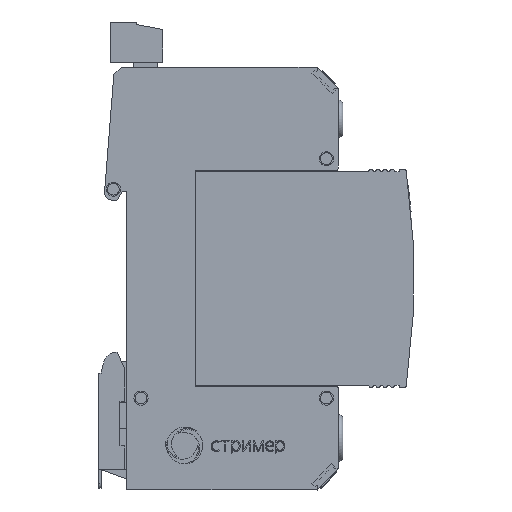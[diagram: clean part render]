
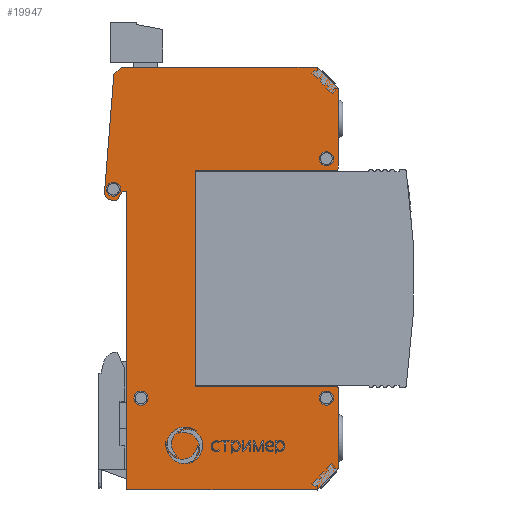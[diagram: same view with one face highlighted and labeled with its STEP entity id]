
A CAD part, front view. The second image highlights one B-rep face of the part: STEP entity #19947.
In plain terms, the highlighted planar face has unit normal (0, -1, 0).
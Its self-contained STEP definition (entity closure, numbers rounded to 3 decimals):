
#18127=CARTESIAN_POINT('',(-14.5,-9.,-45.));
#18128=VERTEX_POINT('',#18127);
#18129=CARTESIAN_POINT('',(26.,-9.,-45.));
#18130=VERTEX_POINT('',#18129);
#18131=CARTESIAN_POINT('',(-14.5,-9.,-45.));
#18132=DIRECTION('',(1.,0.,-0.));
#18133=VECTOR('',#18132,40.5);
#18134=LINE('',#18131,#18133);
#18135=EDGE_CURVE('',#18128,#18130,#18134,.T.);
#18797=CARTESIAN_POINT('',(-14.5,-9.,18.5));
#18798=VERTEX_POINT('',#18797);
#18799=CARTESIAN_POINT('',(-14.5,-9.,18.5));
#18800=DIRECTION('',(0.,0.,-1.));
#18801=VECTOR('',#18800,63.5);
#18802=LINE('',#18799,#18801);
#18803=EDGE_CURVE('',#18798,#18128,#18802,.T.);
#18998=CARTESIAN_POINT('',(-15.5,-9.,45.));
#18999=VERTEX_POINT('',#18998);
#19000=CARTESIAN_POINT('',(-17.29,-9.,43.498));
#19001=VERTEX_POINT('',#19000);
#19002=CARTESIAN_POINT('',(-15.5,-9.,45.));
#19003=DIRECTION('',(-0.766,0.,-0.643));
#19004=VECTOR('',#19003,2.337);
#19005=LINE('',#19002,#19004);
#19006=EDGE_CURVE('',#18999,#19001,#19005,.T.);
#19038=CARTESIAN_POINT('',(-19.273,-9.,18.306));
#19039=VERTEX_POINT('',#19038);
#19040=CARTESIAN_POINT('',(-17.29,-9.,43.498));
#19041=DIRECTION('',(-0.078,0.,-0.997));
#19042=VECTOR('',#19041,25.27);
#19043=LINE('',#19040,#19042);
#19044=EDGE_CURVE('',#19001,#19039,#19043,.T.);
#19069=CARTESIAN_POINT('',(-17.999,-9.,16.704));
#19070=VERTEX_POINT('',#19069);
#19071=CARTESIAN_POINT('',(-17.777,-9.,18.188));
#19072=DIRECTION('',(0.,-1.,0.));
#19073=DIRECTION('',(0.,0.,1.));
#19074=AXIS2_PLACEMENT_3D('',#19071,#19072,#19073);
#19075=CIRCLE('',#19074,1.5);
#19076=EDGE_CURVE('',#19039,#19070,#19075,.T.);
#19102=CARTESIAN_POINT('',(-16.632,-9.,16.5));
#19103=VERTEX_POINT('',#19102);
#19104=CARTESIAN_POINT('',(-17.999,-9.,16.704));
#19105=DIRECTION('',(0.989,0.,-0.148));
#19106=VECTOR('',#19105,1.383);
#19107=LINE('',#19104,#19106);
#19108=EDGE_CURVE('',#19070,#19103,#19107,.T.);
#19133=CARTESIAN_POINT('',(-15.5,-9.,18.5));
#19134=VERTEX_POINT('',#19133);
#19135=CARTESIAN_POINT('',(-16.632,-9.,16.5));
#19136=DIRECTION('',(0.492,0.,0.87));
#19137=VECTOR('',#19136,2.298);
#19138=LINE('',#19135,#19137);
#19139=EDGE_CURVE('',#19103,#19134,#19138,.T.);
#19164=CARTESIAN_POINT('',(-15.5,-9.,18.5));
#19165=DIRECTION('',(1.,0.,0.));
#19166=VECTOR('',#19165,1.);
#19167=LINE('',#19164,#19166);
#19168=EDGE_CURVE('',#19134,#18798,#19167,.T.);
#19186=CARTESIAN_POINT('',(30.5,-9.,-40.5));
#19187=VERTEX_POINT('',#19186);
#19188=CARTESIAN_POINT('',(26.,-9.,-45.));
#19189=DIRECTION('',(0.707,0.,0.707));
#19190=VECTOR('',#19189,6.364);
#19191=LINE('',#19188,#19190);
#19192=EDGE_CURVE('',#18130,#19187,#19191,.T.);
#19237=CARTESIAN_POINT('',(30.5,-9.,-23.5));
#19238=VERTEX_POINT('',#19237);
#19239=CARTESIAN_POINT('',(30.5,-9.,-40.5));
#19240=DIRECTION('',(0.,0.,1.));
#19241=VECTOR('',#19240,17.);
#19242=LINE('',#19239,#19241);
#19243=EDGE_CURVE('',#19187,#19238,#19242,.T.);
#19268=CARTESIAN_POINT('',(30.,-9.,-23.));
#19269=VERTEX_POINT('',#19268);
#19270=CARTESIAN_POINT('',(30.,-9.,-23.5));
#19271=DIRECTION('',(0.,-1.,0.));
#19272=DIRECTION('',(0.,0.,1.));
#19273=AXIS2_PLACEMENT_3D('',#19270,#19271,#19272);
#19274=CIRCLE('',#19273,0.5);
#19275=EDGE_CURVE('',#19238,#19269,#19274,.T.);
#19301=CARTESIAN_POINT('',(0.,-9.,-23.));
#19302=VERTEX_POINT('',#19301);
#19303=CARTESIAN_POINT('',(30.,-9.,-23.));
#19304=DIRECTION('',(-1.,0.,0.));
#19305=VECTOR('',#19304,30.);
#19306=LINE('',#19303,#19305);
#19307=EDGE_CURVE('',#19269,#19302,#19306,.T.);
#19332=CARTESIAN_POINT('',(0.,-9.,23.));
#19333=VERTEX_POINT('',#19332);
#19334=CARTESIAN_POINT('',(0.,-9.,-23.));
#19335=DIRECTION('',(0.,0.,1.));
#19336=VECTOR('',#19335,46.);
#19337=LINE('',#19334,#19336);
#19338=EDGE_CURVE('',#19302,#19333,#19337,.T.);
#19363=CARTESIAN_POINT('',(30.,-9.,23.));
#19364=VERTEX_POINT('',#19363);
#19365=CARTESIAN_POINT('',(0.,-9.,23.));
#19366=DIRECTION('',(1.,0.,0.));
#19367=VECTOR('',#19366,30.);
#19368=LINE('',#19365,#19367);
#19369=EDGE_CURVE('',#19333,#19364,#19368,.T.);
#19394=CARTESIAN_POINT('',(30.5,-9.,23.5));
#19395=VERTEX_POINT('',#19394);
#19396=CARTESIAN_POINT('',(30.,-9.,23.5));
#19397=DIRECTION('',(0.,-1.,0.));
#19398=DIRECTION('',(0.,0.,1.));
#19399=AXIS2_PLACEMENT_3D('',#19396,#19397,#19398);
#19400=CIRCLE('',#19399,0.5);
#19401=EDGE_CURVE('',#19364,#19395,#19400,.T.);
#19467=CARTESIAN_POINT('',(30.5,-9.,40.5));
#19468=VERTEX_POINT('',#19467);
#19469=CARTESIAN_POINT('',(30.5,-9.,23.5));
#19470=DIRECTION('',(0.,0.,1.));
#19471=VECTOR('',#19470,17.);
#19472=LINE('',#19469,#19471);
#19473=EDGE_CURVE('',#19395,#19468,#19472,.T.);
#19498=CARTESIAN_POINT('',(26.,-9.,45.));
#19499=VERTEX_POINT('',#19498);
#19500=CARTESIAN_POINT('',(30.5,-9.,40.5));
#19501=DIRECTION('',(-0.707,0.,0.707));
#19502=VECTOR('',#19501,6.364);
#19503=LINE('',#19500,#19502);
#19504=EDGE_CURVE('',#19468,#19499,#19503,.T.);
#19529=CARTESIAN_POINT('',(-17.38,-9.,17.5));
#19530=VERTEX_POINT('',#19529);
#19539=CARTESIAN_POINT('',(-18.88,-9.,19.));
#19540=VERTEX_POINT('',#19539);
#19541=CARTESIAN_POINT('',(-17.38,-9.,19.));
#19542=DIRECTION('',(0.,-1.,0.));
#19543=DIRECTION('',(-1.,0.,0.));
#19544=AXIS2_PLACEMENT_3D('',#19541,#19542,#19543);
#19545=CIRCLE('',#19544,1.5);
#19546=EDGE_CURVE('',#19530,#19540,#19545,.T.);
#19571=CARTESIAN_POINT('',(28.,-9.,24.));
#19572=VERTEX_POINT('',#19571);
#19581=CARTESIAN_POINT('',(26.5,-9.,25.5));
#19582=VERTEX_POINT('',#19581);
#19583=CARTESIAN_POINT('',(28.,-9.,25.5));
#19584=DIRECTION('',(0.,-1.,0.));
#19585=DIRECTION('',(-1.,0.,0.));
#19586=AXIS2_PLACEMENT_3D('',#19583,#19584,#19585);
#19587=CIRCLE('',#19586,1.5);
#19588=EDGE_CURVE('',#19572,#19582,#19587,.T.);
#19613=CARTESIAN_POINT('',(-11.5,-9.,-27.));
#19614=VERTEX_POINT('',#19613);
#19623=CARTESIAN_POINT('',(-13.,-9.,-25.5));
#19624=VERTEX_POINT('',#19623);
#19625=CARTESIAN_POINT('',(-11.5,-9.,-25.5));
#19626=DIRECTION('',(0.,-1.,0.));
#19627=DIRECTION('',(-1.,0.,0.));
#19628=AXIS2_PLACEMENT_3D('',#19625,#19626,#19627);
#19629=CIRCLE('',#19628,1.5);
#19630=EDGE_CURVE('',#19614,#19624,#19629,.T.);
#19655=CARTESIAN_POINT('',(28.,-9.,-27.));
#19656=VERTEX_POINT('',#19655);
#19665=CARTESIAN_POINT('',(26.5,-9.,-25.5));
#19666=VERTEX_POINT('',#19665);
#19667=CARTESIAN_POINT('',(28.,-9.,-25.5));
#19668=DIRECTION('',(0.,-1.,0.));
#19669=DIRECTION('',(-1.,0.,0.));
#19670=AXIS2_PLACEMENT_3D('',#19667,#19668,#19669);
#19671=CIRCLE('',#19670,1.5);
#19672=EDGE_CURVE('',#19656,#19666,#19671,.T.);
#19799=CARTESIAN_POINT('',(26.,-9.,45.));
#19800=DIRECTION('',(-1.,0.,0.));
#19801=VECTOR('',#19800,41.5);
#19802=LINE('',#19799,#19801);
#19803=EDGE_CURVE('',#19499,#18999,#19802,.T.);
#19882=CARTESIAN_POINT('',(0.,-9.,0.));
#19883=DIRECTION('',(0.,-1.,0.));
#19884=DIRECTION('',(0.,0.,1.));
#19885=AXIS2_PLACEMENT_3D('',#19882,#19883,#19884);
#19886=PLANE('',#19885);
#19887=ORIENTED_EDGE('',*,*,#19672,.F.);
#19888=CARTESIAN_POINT('',(28.,-9.,-25.5));
#19889=DIRECTION('',(0.,-1.,0.));
#19890=DIRECTION('',(-1.,0.,0.));
#19891=AXIS2_PLACEMENT_3D('',#19888,#19889,#19890);
#19892=CIRCLE('',#19891,1.5);
#19893=EDGE_CURVE('',#19666,#19656,#19892,.T.);
#19894=ORIENTED_EDGE('',*,*,#19893,.F.);
#19895=EDGE_LOOP('',(#19887,#19894));
#19896=FACE_BOUND('',#19895,.T.);
#19897=ORIENTED_EDGE('',*,*,#19630,.F.);
#19898=CARTESIAN_POINT('',(-11.5,-9.,-25.5));
#19899=DIRECTION('',(0.,-1.,0.));
#19900=DIRECTION('',(-1.,0.,0.));
#19901=AXIS2_PLACEMENT_3D('',#19898,#19899,#19900);
#19902=CIRCLE('',#19901,1.5);
#19903=EDGE_CURVE('',#19624,#19614,#19902,.T.);
#19904=ORIENTED_EDGE('',*,*,#19903,.F.);
#19905=EDGE_LOOP('',(#19897,#19904));
#19906=FACE_BOUND('',#19905,.T.);
#19907=ORIENTED_EDGE('',*,*,#19588,.F.);
#19908=CARTESIAN_POINT('',(28.,-9.,25.5));
#19909=DIRECTION('',(0.,-1.,0.));
#19910=DIRECTION('',(-1.,0.,0.));
#19911=AXIS2_PLACEMENT_3D('',#19908,#19909,#19910);
#19912=CIRCLE('',#19911,1.5);
#19913=EDGE_CURVE('',#19582,#19572,#19912,.T.);
#19914=ORIENTED_EDGE('',*,*,#19913,.F.);
#19915=EDGE_LOOP('',(#19907,#19914));
#19916=FACE_BOUND('',#19915,.T.);
#19917=ORIENTED_EDGE('',*,*,#19546,.F.);
#19918=CARTESIAN_POINT('',(-17.38,-9.,19.));
#19919=DIRECTION('',(0.,-1.,0.));
#19920=DIRECTION('',(-1.,0.,0.));
#19921=AXIS2_PLACEMENT_3D('',#19918,#19919,#19920);
#19922=CIRCLE('',#19921,1.5);
#19923=EDGE_CURVE('',#19540,#19530,#19922,.T.);
#19924=ORIENTED_EDGE('',*,*,#19923,.F.);
#19925=EDGE_LOOP('',(#19917,#19924));
#19926=FACE_BOUND('',#19925,.T.);
#19927=ORIENTED_EDGE('',*,*,#19006,.T.);
#19928=ORIENTED_EDGE('',*,*,#19044,.T.);
#19929=ORIENTED_EDGE('',*,*,#19076,.T.);
#19930=ORIENTED_EDGE('',*,*,#19108,.T.);
#19931=ORIENTED_EDGE('',*,*,#19139,.T.);
#19932=ORIENTED_EDGE('',*,*,#19168,.T.);
#19933=ORIENTED_EDGE('',*,*,#18803,.T.);
#19934=ORIENTED_EDGE('',*,*,#18135,.T.);
#19935=ORIENTED_EDGE('',*,*,#19192,.T.);
#19936=ORIENTED_EDGE('',*,*,#19243,.T.);
#19937=ORIENTED_EDGE('',*,*,#19275,.T.);
#19938=ORIENTED_EDGE('',*,*,#19307,.T.);
#19939=ORIENTED_EDGE('',*,*,#19338,.T.);
#19940=ORIENTED_EDGE('',*,*,#19369,.T.);
#19941=ORIENTED_EDGE('',*,*,#19401,.T.);
#19942=ORIENTED_EDGE('',*,*,#19473,.T.);
#19943=ORIENTED_EDGE('',*,*,#19504,.T.);
#19944=ORIENTED_EDGE('',*,*,#19803,.T.);
#19945=EDGE_LOOP('',(#19927,#19928,#19929,#19930,#19931,#19932,#19933,#19934,#19935,#19936,#19937,#19938,#19939,#19940,#19941,#19942,#19943,#19944));
#19946=FACE_BOUND('',#19945,.T.);
#19947=ADVANCED_FACE('',(#19896,#19906,#19916,#19926,#19946),#19886,.T.);
